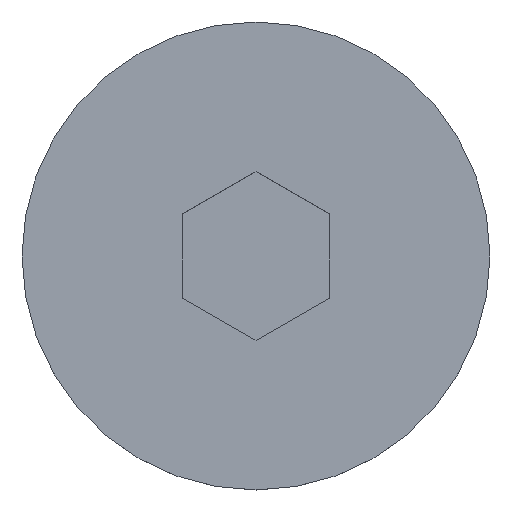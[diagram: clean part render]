
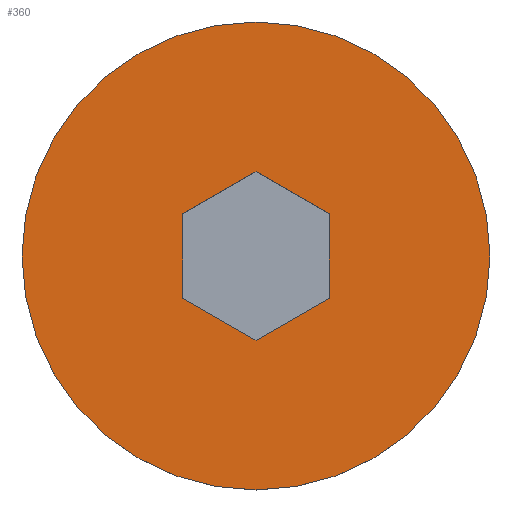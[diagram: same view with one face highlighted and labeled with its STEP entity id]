
A CAD part, top view. The second image highlights one B-rep face of the part: STEP entity #360.
In plain terms, the highlighted planar face has unit normal (0, 0, 1).
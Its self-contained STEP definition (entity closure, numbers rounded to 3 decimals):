
#3 = CIRCLE ( 'NONE', #328, 9.61 ) ;
#10 = ORIENTED_EDGE ( 'NONE', *, *, #15, .F. ) ;
#14 = DIRECTION ( 'NONE',  ( -0.866, 0.5, 0. ) ) ;
#15 = EDGE_CURVE ( 'NONE', #400, #140, #256, .T. ) ;
#16 = VECTOR ( 'NONE', #153, 1000. ) ;
#21 = CARTESIAN_POINT ( 'NONE',  ( 0., 0., 5.22 ) ) ;
#30 = CARTESIAN_POINT ( 'NONE',  ( 3., 1.732, 5.22 ) ) ;
#33 = CARTESIAN_POINT ( 'NONE',  ( -9.61, 0., 5.22 ) ) ;
#41 = EDGE_CURVE ( 'NONE', #341, #146, #267, .T. ) ;
#45 = ORIENTED_EDGE ( 'NONE', *, *, #129, .F. ) ;
#49 = VECTOR ( 'NONE', #212, 1000. ) ;
#61 = CARTESIAN_POINT ( 'NONE',  ( 3., -1.732, 5.22 ) ) ;
#62 = EDGE_LOOP ( 'NONE', ( #10, #106, #325, #216, #241, #425 ) ) ;
#63 = VERTEX_POINT ( 'NONE', #291 ) ;
#65 = EDGE_CURVE ( 'NONE', #140, #341, #273, .T. ) ;
#69 = VERTEX_POINT ( 'NONE', #259 ) ;
#76 = VECTOR ( 'NONE', #330, 1000. ) ;
#81 = LINE ( 'NONE', #91, #76 ) ;
#87 = CARTESIAN_POINT ( 'NONE',  ( 0., 0., 5.22 ) ) ;
#91 = CARTESIAN_POINT ( 'NONE',  ( 3., -1.732, 5.22 ) ) ;
#99 = CARTESIAN_POINT ( 'NONE',  ( -3., -1.732, 5.22 ) ) ;
#100 = CARTESIAN_POINT ( 'NONE',  ( -3., 1.732, 5.22 ) ) ;
#106 = ORIENTED_EDGE ( 'NONE', *, *, #253, .F. ) ;
#107 = EDGE_LOOP ( 'NONE', ( #45, #334 ) ) ;
#110 = FACE_BOUND ( 'NONE', #62, .T. ) ;
#118 = CARTESIAN_POINT ( 'NONE',  ( -3., 1.732, 5.22 ) ) ;
#121 = DIRECTION ( 'NONE',  ( -1., 0., 0. ) ) ;
#129 = EDGE_CURVE ( 'NONE', #63, #69, #189, .T. ) ;
#130 = DIRECTION ( 'NONE',  ( -1., 0., 0. ) ) ;
#140 = VERTEX_POINT ( 'NONE', #406 ) ;
#146 = VERTEX_POINT ( 'NONE', #159 ) ;
#151 = DIRECTION ( 'NONE',  ( 0., 0., -1. ) ) ;
#153 = DIRECTION ( 'NONE',  ( -0.866, -0.5, 0. ) ) ;
#159 = CARTESIAN_POINT ( 'NONE',  ( -3., -1.732, 5.22 ) ) ;
#168 = FACE_OUTER_BOUND ( 'NONE', #107, .T. ) ;
#175 = EDGE_CURVE ( 'NONE', #69, #63, #3, .T. ) ;
#176 = VECTOR ( 'NONE', #199, 1000. ) ;
#184 = EDGE_CURVE ( 'NONE', #392, #386, #214, .T. ) ;
#189 = CIRCLE ( 'NONE', #395, 9.61 ) ;
#199 = DIRECTION ( 'NONE',  ( 0.866, 0.5, 0. ) ) ;
#202 = PLANE ( 'NONE',  #381 ) ;
#212 = DIRECTION ( 'NONE',  ( 0.866, -0.5, 0. ) ) ;
#214 = LINE ( 'NONE', #299, #176 ) ;
#216 = ORIENTED_EDGE ( 'NONE', *, *, #429, .F. ) ;
#221 = CARTESIAN_POINT ( 'NONE',  ( 3., 1.732, 5.22 ) ) ;
#241 = ORIENTED_EDGE ( 'NONE', *, *, #41, .F. ) ;
#242 = CARTESIAN_POINT ( 'NONE',  ( 0., -3.464, 5.22 ) ) ;
#253 = EDGE_CURVE ( 'NONE', #386, #400, #81, .T. ) ;
#256 = LINE ( 'NONE', #221, #412 ) ;
#259 = CARTESIAN_POINT ( 'NONE',  ( 9.61, 0., 5.22 ) ) ;
#267 = LINE ( 'NONE', #118, #278 ) ;
#273 = LINE ( 'NONE', #326, #16 ) ;
#278 = VECTOR ( 'NONE', #435, 1000. ) ;
#291 = CARTESIAN_POINT ( 'NONE',  ( -9.61, 0., 5.22 ) ) ;
#299 = CARTESIAN_POINT ( 'NONE',  ( 0., -3.464, 5.22 ) ) ;
#306 = DIRECTION ( 'NONE',  ( 0., 0., 1. ) ) ;
#311 = DIRECTION ( 'NONE',  ( 1., 0., 0. ) ) ;
#325 = ORIENTED_EDGE ( 'NONE', *, *, #184, .F. ) ;
#326 = CARTESIAN_POINT ( 'NONE',  ( 0., 3.464, 5.22 ) ) ;
#328 = AXIS2_PLACEMENT_3D ( 'NONE', #21, #338, #130 ) ;
#330 = DIRECTION ( 'NONE',  ( 0., 1., 0. ) ) ;
#334 = ORIENTED_EDGE ( 'NONE', *, *, #175, .F. ) ;
#338 = DIRECTION ( 'NONE',  ( 0., 0., -1. ) ) ;
#341 = VERTEX_POINT ( 'NONE', #100 ) ;
#360 = ADVANCED_FACE ( 'NONE', ( #110, #168 ), #202, .T. ) ;
#381 = AXIS2_PLACEMENT_3D ( 'NONE', #33, #306, #311 ) ;
#386 = VERTEX_POINT ( 'NONE', #61 ) ;
#392 = VERTEX_POINT ( 'NONE', #242 ) ;
#393 = LINE ( 'NONE', #99, #49 ) ;
#395 = AXIS2_PLACEMENT_3D ( 'NONE', #87, #151, #121 ) ;
#400 = VERTEX_POINT ( 'NONE', #30 ) ;
#406 = CARTESIAN_POINT ( 'NONE',  ( 0., 3.464, 5.22 ) ) ;
#412 = VECTOR ( 'NONE', #14, 1000. ) ;
#425 = ORIENTED_EDGE ( 'NONE', *, *, #65, .F. ) ;
#429 = EDGE_CURVE ( 'NONE', #146, #392, #393, .T. ) ;
#435 = DIRECTION ( 'NONE',  ( 0., -1., 0. ) ) ;
